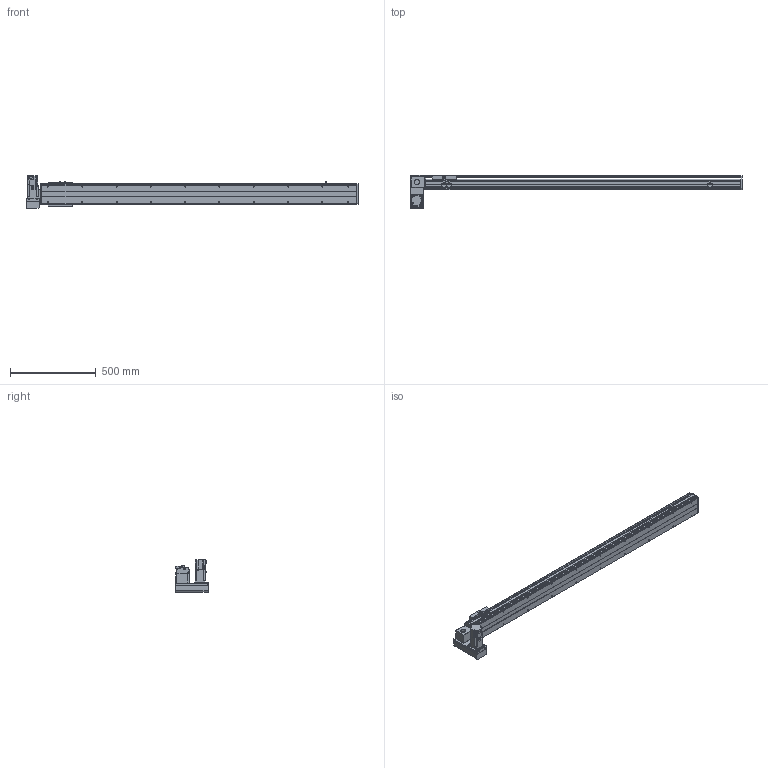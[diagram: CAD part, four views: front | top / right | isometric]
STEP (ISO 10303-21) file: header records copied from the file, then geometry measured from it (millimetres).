
FILE_DESCRIPTION( ( 'STEP AP214' ), '1' );
FILE_NAME( 'x:/temp/worker_27/temp/exporttempdir_6708_51_vN97L/format_0/PBS120-P40-S1550-LD-T40-C1-N(0).stp', '2022-06-06T00:17:31', ( 'License CC BY-ND 4.0' ), ( 'CADENAS' ), ' ', 'PARTsolutions', ' ' );
FILE_SCHEMA( ( 'AUTOMOTIVE_DESIGN { 1 0 10303 214 1 1 1 1 }' ) );
Length unit declared in the file: millimetre
Products named in the file (7): PBS120-P40-S1550-LD-T40-C1-N(0); _PBS120-S1550()_body; _PBS120T-LD_motors; _T40-p1; _PBS120_sliser; _PBS120_plant; _PBS120_sensor
Assembly tree (8 placements, depth 2):
  PBS120-P40-S1550-LD-T40-C1-N(0)
    _PBS120-S1550()_body
    _PBS120T-LD_motors
    _T40-p1
    _PBS120_sliser
    _PBS120_plant
    _PBS120_sensor  x3
Bounding box: 1936 x 196 x 189.7 mm (x, y, z)
Volume: 7751519.5 mm3; surface area: 1558727.8 mm2
Topology: 8 solids, 8 shells, 840 faces, 2176 edges, 1399 vertices
Faces by surface type: plane 553, cylinder 233, cone 52, torus 2
Full cylindrical faces by diameter (mm): 2.459 x6, 3.242 x4, 4 x2, 4.134 x4, 4.5 x10, 4.917 x24, 5.5 x11, 6 x2, 6.6 x1, 7 x2, 8.5 x4, 9 x4, 12 x1, 14 x1, 30 x2, 40 x1, 50 x2
Entity records: 27660 total; most frequent: DIRECTION 3788, CARTESIAN_POINT 3713, ORIENTED_EDGE 3526, EDGE_CURVE 1763, AXIS2_PLACEMENT_3D 1280, LINE 1228, VECTOR 1228, VERTEX_POINT 1205
